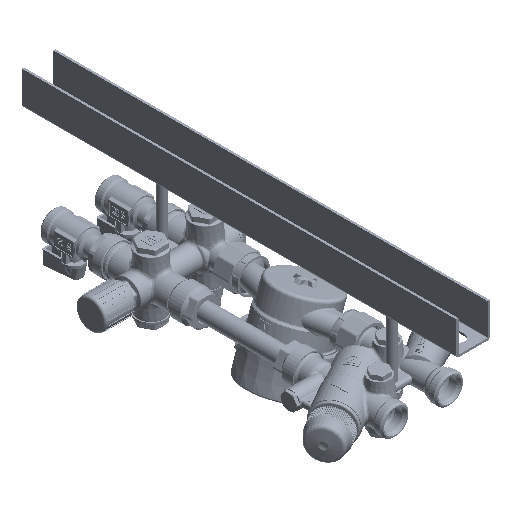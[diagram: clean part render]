
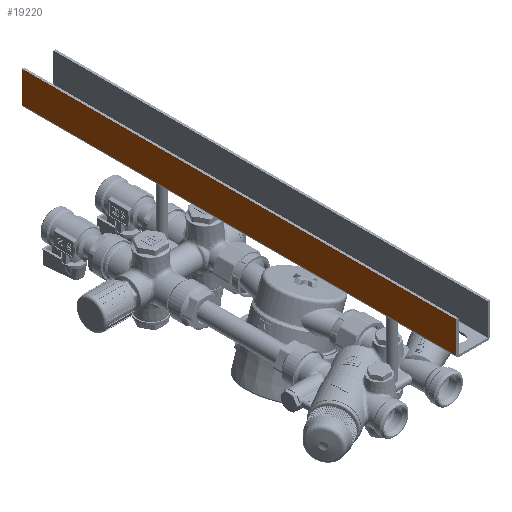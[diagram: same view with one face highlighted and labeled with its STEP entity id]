
A CAD part, isometric view. The second image highlights one B-rep face of the part: STEP entity #19220.
In plain terms, the highlighted planar face has unit normal (-1, 0, 0).
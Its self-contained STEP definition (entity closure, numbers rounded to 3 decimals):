
#19220=ADVANCED_FACE('',(#107478),#107480,.T.);
#107478=FACE_BOUND('',#107479,.T.);
#107479=EDGE_LOOP('',(#143119,#143120,#143121,#143122));
#107480=PLANE('',#107481);
#107481=AXIS2_PLACEMENT_3D('',#107482,#107483,#107484);
#107482=CARTESIAN_POINT('',(-15.5,-400.,-31.2));
#107483=DIRECTION('',(-1.,0.,0.));
#107484=DIRECTION('',(0.,0.,1.));
#143119=ORIENTED_EDGE('',*,*,#159244,.T.);
#143120=ORIENTED_EDGE('',*,*,#159267,.T.);
#143121=ORIENTED_EDGE('',*,*,#159256,.F.);
#143122=ORIENTED_EDGE('',*,*,#159270,.F.);
#159244=EDGE_CURVE('',#186088,#186086,#186089,.T.);
#159256=EDGE_CURVE('',#186107,#186109,#186110,.T.);
#159267=EDGE_CURVE('',#186086,#186109,#186123,.T.);
#159270=EDGE_CURVE('',#186088,#186107,#186126,.T.);
#186086=VERTEX_POINT('',#298518);
#186088=VERTEX_POINT('',#298523);
#186089=LINE('',#298524,#298525);
#186107=VERTEX_POINT('',#298568);
#186109=VERTEX_POINT('',#298572);
#186110=LINE('',#298573,#298574);
#186123=LINE('',#298610,#298611);
#186126=LINE('',#298619,#298620);
#298518=CARTESIAN_POINT('',(-15.5,-400.,-2.5));
#298523=CARTESIAN_POINT('',(-15.5,-400.,-31.2));
#298524=CARTESIAN_POINT('',(-15.5,-400.,-31.2));
#298525=VECTOR('',#298526,1.);
#298526=DIRECTION('',(0.,0.,1.));
#298568=CARTESIAN_POINT('',(-15.5,0.,-31.2));
#298572=CARTESIAN_POINT('',(-15.5,0.,-2.5));
#298573=CARTESIAN_POINT('',(-15.5,0.,-31.2));
#298574=VECTOR('',#298575,1.);
#298575=DIRECTION('',(0.,0.,1.));
#298610=CARTESIAN_POINT('',(-15.5,-400.,-2.5));
#298611=VECTOR('',#298612,1.);
#298612=DIRECTION('',(0.,1.,0.));
#298619=CARTESIAN_POINT('',(-15.5,-400.,-31.2));
#298620=VECTOR('',#298621,1.);
#298621=DIRECTION('',(0.,1.,0.));
